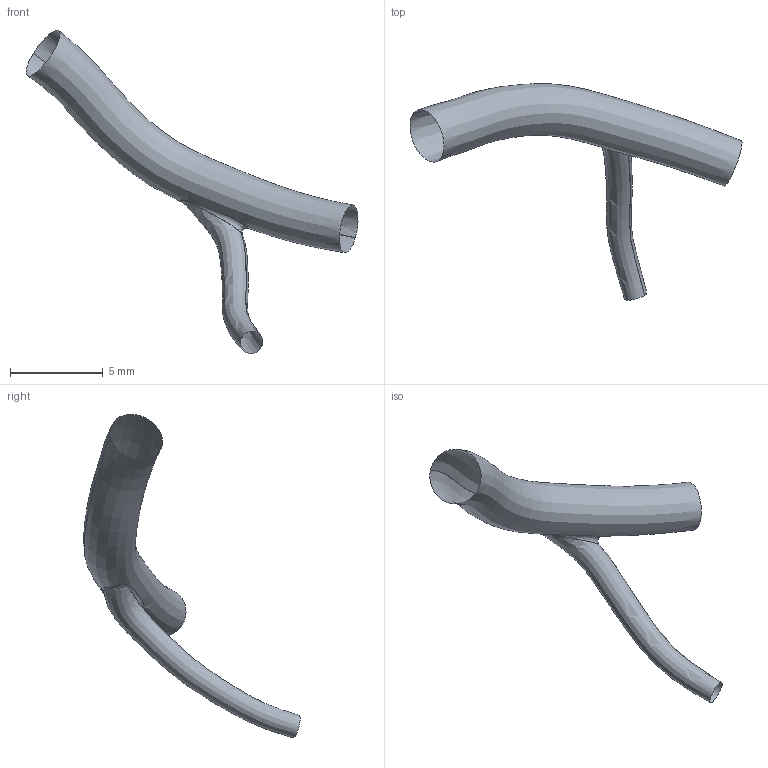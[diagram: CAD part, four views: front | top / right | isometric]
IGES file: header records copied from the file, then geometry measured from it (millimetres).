
Global section: file name: C:\Documents and Settings\Administrator\Desktop\FDA-Pig\Domestic RCA\Pig_000003\rv.es.igs; native system: Rhinoceros ( May 19 2006 ); preprocessor: Trout Lake IGES 012 May 19 2006; date: 111205.184913; units: centimetre
Bounding box: 17.86 x 11.63 x 17.39 mm (x, y, z)
Surface area: 225 mm2 (no closed solid volume)
Topology: 0 solids, 0 shells, 3 faces, 54 edges, 51 vertices
Faces by surface type: bspline 3
